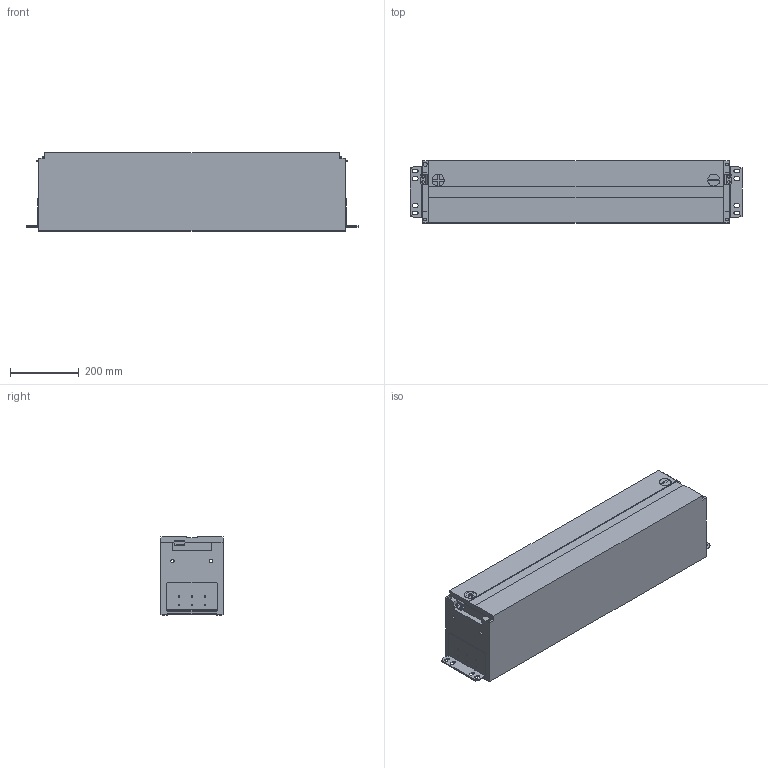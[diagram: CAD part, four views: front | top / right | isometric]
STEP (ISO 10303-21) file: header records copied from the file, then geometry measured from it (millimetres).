
FILE_DESCRIPTION(('CATIA V5 STEP Exchange'),'2;1');
FILE_NAME('E:\work\【02】CBB\二代、三代模组参数化模型\176Ah-11000-1P16S.stp','2017-02-16T07:24:33+00:00',('none'),('none'),'CATIA Version 5 Release 21 GA (IN-10)','CATIA V5 STEP AP214','none');
FILE_SCHEMA(('AUTOMOTIVE_DESIGN { 1 0 10303 214 1 1 1 1 }'));
Length unit declared in the file: millimetre
Products named in the file (1): N176-240M-11000-All
Bounding box: 963.2 x 180 x 226.6 mm (x, y, z)
Volume: 35651285.7 mm3; surface area: 1332889.5 mm2
Topology: 4 solids, 4 shells, 244 faces, 692 edges, 472 vertices
Faces by surface type: plane 158, cylinder 86
Entity records: 7652 total; most frequent: ORIENTED_EDGE 1368, CARTESIAN_POINT 1348, DIRECTION 1058, EDGE_CURVE 684, VECTOR 520, LINE 520, VERTEX_POINT 456, AXIS2_PLACEMENT_3D 356
